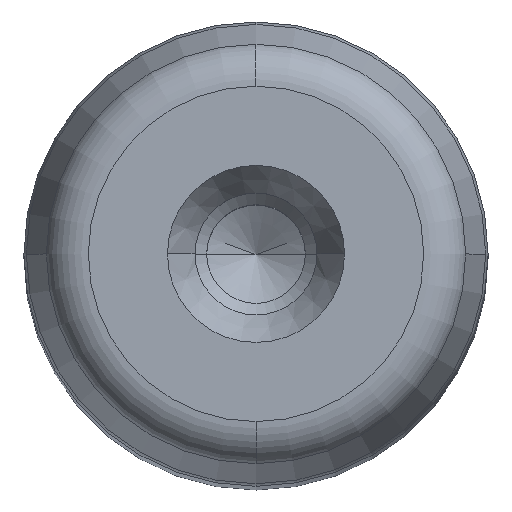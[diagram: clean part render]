
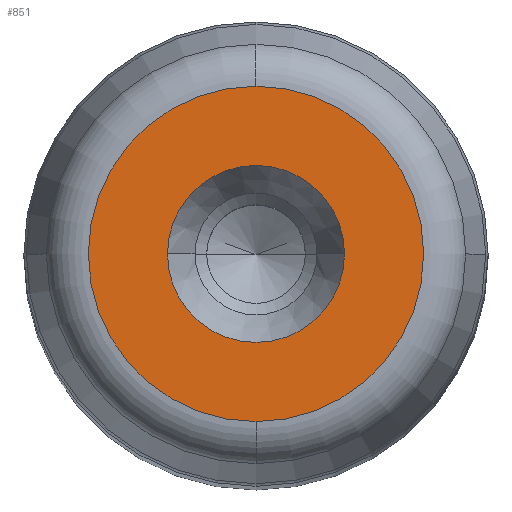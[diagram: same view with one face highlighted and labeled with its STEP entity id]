
A CAD part, top view. The second image highlights one B-rep face of the part: STEP entity #851.
In plain terms, the highlighted planar face has unit normal (0, 0, 1) as drawn and (0, 1, 0) by its records, which use the part's own axes.
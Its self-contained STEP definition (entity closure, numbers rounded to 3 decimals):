
#281=CARTESIAN_POINT('',(6.1,160.0,0.0));
#282=VERTEX_POINT('',#281);
#289=CARTESIAN_POINT('',(-6.1,160.0,0.));
#290=VERTEX_POINT('',#289);
#291=CARTESIAN_POINT('',(0.0,160.0,0.0));
#292=DIRECTION('',(0.0,1.0,0.0));
#293=DIRECTION('',(1.0,0.0,0.0));
#294=AXIS2_PLACEMENT_3D('',#291,#292,#293);
#295=CIRCLE('',#294,6.1);
#296=EDGE_CURVE('',#282,#290,#295,.T.);
#313=CARTESIAN_POINT('',(0.0,160.0,11.554));
#314=VERTEX_POINT('',#313);
#324=CARTESIAN_POINT('',(0.,160.0,-11.554));
#325=VERTEX_POINT('',#324);
#326=CARTESIAN_POINT('',(0.0,160.0,0.0));
#327=DIRECTION('',(0.0,1.0,0.0));
#328=DIRECTION('',(1.0,0.0,0.0));
#329=AXIS2_PLACEMENT_3D('',#326,#327,#328);
#330=CIRCLE('',#329,11.554);
#331=EDGE_CURVE('',#325,#314,#330,.T.);
#812=CARTESIAN_POINT('',(11.554,160.0,0.0));
#813=VERTEX_POINT('',#812);
#814=CARTESIAN_POINT('',(0.0,160.0,0.0));
#815=DIRECTION('',(0.0,1.0,0.0));
#816=DIRECTION('',(1.0,0.0,0.0));
#817=AXIS2_PLACEMENT_3D('',#814,#815,#816);
#818=CIRCLE('',#817,11.554);
#819=EDGE_CURVE('',#813,#325,#818,.T.);
#821=CARTESIAN_POINT('',(0.0,160.0,0.0));
#822=DIRECTION('',(0.0,1.0,0.0));
#823=DIRECTION('',(1.0,0.0,0.0));
#824=AXIS2_PLACEMENT_3D('',#821,#822,#823);
#825=CIRCLE('',#824,11.554);
#826=EDGE_CURVE('',#314,#813,#825,.T.);
#831=CARTESIAN_POINT('',(-12.71,160.0,-12.71));
#832=DIRECTION('',(0.0,1.0,0.0));
#833=DIRECTION('',(0.0,0.0,1.0));
#834=AXIS2_PLACEMENT_3D('',#831,#832,#833);
#835=PLANE('',#834);
#836=ORIENTED_EDGE('',*,*,#819,.T.);
#837=ORIENTED_EDGE('',*,*,#331,.T.);
#838=ORIENTED_EDGE('',*,*,#826,.T.);
#839=EDGE_LOOP('',(#836,#837,#838));
#840=FACE_OUTER_BOUND('',#839,.T.);
#841=ORIENTED_EDGE('',*,*,#296,.F.);
#842=CARTESIAN_POINT('',(0.0,160.0,0.0));
#843=DIRECTION('',(0.0,1.0,0.0));
#844=DIRECTION('',(1.0,0.0,0.0));
#845=AXIS2_PLACEMENT_3D('',#842,#843,#844);
#846=CIRCLE('',#845,6.1);
#847=EDGE_CURVE('',#290,#282,#846,.T.);
#848=ORIENTED_EDGE('',*,*,#847,.F.);
#849=EDGE_LOOP('',(#841,#848));
#850=FACE_BOUND('',#849,.T.);
#851=ADVANCED_FACE('',(#840,#850),#835,.T.);
